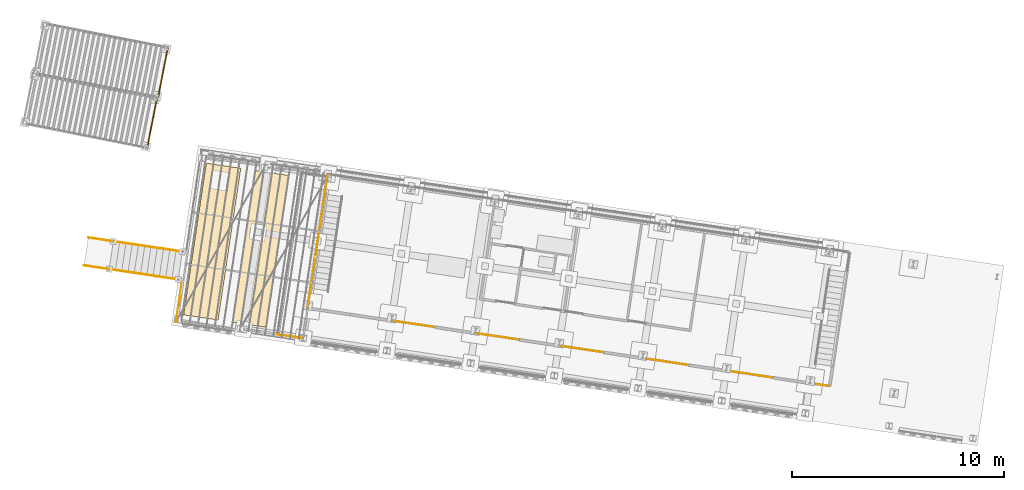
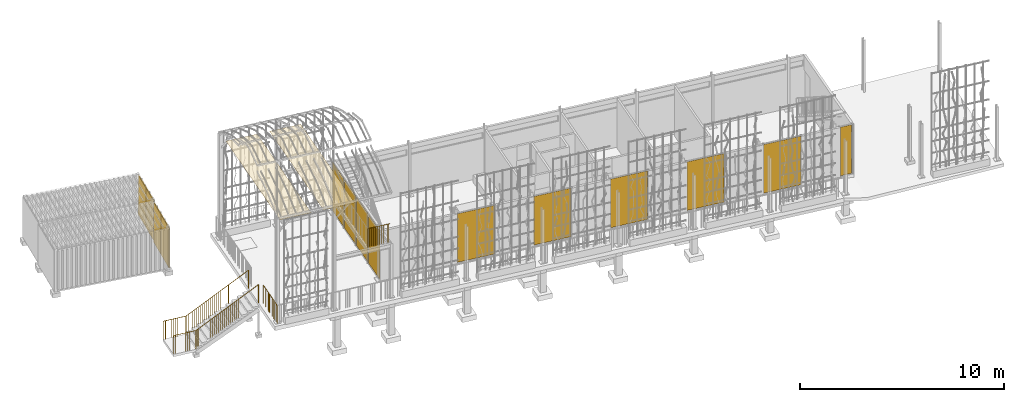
# One storey, part 137 of 142: 11 doors, 6 railings, 3 windows, 2 coverings, 5 elements without a shape of their own.
"""IFC4 building model written with IfcOpenShell, lengths in metres."""

from ifc_helpers import new_model, si_unit, direction, frame, origin_with_axes, place, context, subcontext, project, spatial, polyline, circle, outline, extrude, material, element, aggregate, save


model = new_model("IFC4")

# Units and contexts
model_context = context("Model", 3, precision=1e-05, world=origin_with_axes(), true_north=direction((0.0, 1.0)))
body_context = subcontext(model_context, "Body", "Model", "MODEL_VIEW")
ifc_project = project(units=[si_unit("AREAUNIT", "SQUARE_METRE"), si_unit("VOLUMEUNIT", "CUBIC_METRE"), si_unit("LENGTHUNIT", "METRE")], contexts=[model_context])

# Site, building, storey
site_placement = place(None, origin_with_axes())
site = spatial("IfcSite", under=ifc_project, at=site_placement, Name="Lares · Rua das Mercês · artigo 4771")
building_placement = place(site_placement, frame((15.0, 9.7, 14.65), z_axis=(0.0, 0.0, 1.0), x_axis=(0.989015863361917, -0.147809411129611, 0.0)))
building = spatial("IfcBuilding", under=site, at=building_placement, Name="Casa Sobreposta")
storey_placement = place(building_placement, origin_with_axes())
storey = spatial("IfcBuildingStorey", under=building, at=storey_placement, Name="00 · Habitação e estacionamento", Elevation=14.65)

# Doors
ifc_material_1 = material(Name="Vidro / Normalglas", Category="glass")
door_1_placement = place(storey_placement, frame((0.0, 0.0, 0.025), z_axis=(0.0, 0.0, 1.0), x_axis=(1.0, 0.0, 0.0)))
element("IfcDoor", 1, at=door_1_placement, inside=storey, material=ifc_material_1, Name="Folha de correr sul 2", OperationType="SLIDING_TO_LEFT", OverallHeight=2.918, OverallWidth=1.97133333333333, PredefinedType="DOOR", context=body_context, shape_type="SweptSolid", body=[
    extrude(outline(polyline([(6.039, 0.004), (6.039, -0.004), (4.06766666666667, -0.004), (4.06766666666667, 0.004), (6.039, 0.004)])), origin_with_axes(), (0.0, 0.0, 1.0), 2.918),
])
door_2_placement = place(storey_placement, frame((0.0, 0.0, 0.025), z_axis=(0.0, 0.0, 1.0), x_axis=(1.0, 0.0, 0.0)))
element("IfcDoor", 2, at=door_2_placement, inside=storey, material=ifc_material_1, Name="Folha de correr sul 4", OperationType="SLIDING_TO_LEFT", OverallHeight=2.918, OverallWidth=1.97133333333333, PredefinedType="DOOR", context=body_context, shape_type="SweptSolid", body=[
    extrude(outline(polyline([(10.0816666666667, 0.004), (10.0816666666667, -0.004), (8.11033333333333, -0.004), (8.11033333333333, 0.004), (10.0816666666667, 0.004)])), origin_with_axes(), (0.0, 0.0, 1.0), 2.918),
])
door_3_placement = place(storey_placement, frame((0.0, 0.0, 0.025), z_axis=(0.0, 0.0, 1.0), x_axis=(1.0, 0.0, 0.0)))
element("IfcDoor", 3, at=door_3_placement, inside=storey, material=ifc_material_1, Name="Folha de correr sul 6", OperationType="SLIDING_TO_LEFT", OverallHeight=2.918, OverallWidth=1.97133333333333, PredefinedType="DOOR", context=body_context, shape_type="SweptSolid", body=[
    extrude(outline(polyline([(14.1243333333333, 0.004), (14.1243333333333, -0.004), (12.153, -0.004), (12.153, 0.004), (14.1243333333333, 0.004)])), origin_with_axes(), (0.0, 0.0, 1.0), 2.918),
])
door_4_placement = place(storey_placement, frame((0.0, 0.0, 0.025), z_axis=(0.0, 0.0, 1.0), x_axis=(1.0, 0.0, 0.0)))
element("IfcDoor", 4, at=door_4_placement, inside=storey, material=ifc_material_1, Name="Folha de correr sul 8", OperationType="SLIDING_TO_LEFT", OverallHeight=2.918, OverallWidth=1.97133333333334, PredefinedType="DOOR", context=body_context, shape_type="SweptSolid", body=[
    extrude(outline(polyline([(18.167, 0.004), (18.167, -0.004), (16.1956666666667, -0.004), (16.1956666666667, 0.004), (18.167, 0.004)])), origin_with_axes(), (0.0, 0.0, 1.0), 2.918),
])
door_5_placement = place(storey_placement, frame((0.0, 0.0, 0.025), z_axis=(0.0, 0.0, 1.0), x_axis=(1.0, 0.0, 0.0)))
element("IfcDoor", 5, at=door_5_placement, inside=storey, material=ifc_material_1, Name="Folha de correr sul 10", OperationType="SLIDING_TO_LEFT", OverallHeight=2.918, OverallWidth=1.97133333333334, PredefinedType="DOOR", context=body_context, shape_type="SweptSolid", body=[
    extrude(outline(polyline([(22.2096666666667, 0.004), (22.2096666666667, -0.004), (20.2383333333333, -0.004), (20.2383333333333, 0.004), (22.2096666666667, 0.004)])), origin_with_axes(), (0.0, 0.0, 1.0), 2.918),
])
door_6_placement = place(storey_placement, frame((0.0, 0.0, 0.025), z_axis=(0.0, 0.0, 1.0), x_axis=(1.0, 0.0, 0.0)))
element("IfcDoor", 6, at=door_6_placement, inside=storey, material=ifc_material_1, Name="Folha de correr sul 12", OperationType="SLIDING_TO_LEFT", OverallHeight=2.918, OverallWidth=0.614000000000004, PredefinedType="DOOR", context=body_context, shape_type="SweptSolid", body=[
    extrude(outline(polyline([(24.895, 0.004), (24.895, -0.004), (24.281, -0.004), (24.281, 0.004), (24.895, 0.004)])), origin_with_axes(), (0.0, 0.0, 1.0), 2.918),
])

# Windows
window_1_placement = place(storey_placement, frame((0.0, 0.0, 0.025), z_axis=(0.0, 0.0, 1.0), x_axis=(1.0, 0.0, 0.0)))
element("IfcWindow", 7, at=window_1_placement, inside=storey, material=ifc_material_1, Name="Fachada poente integralmente envidraçada · módulo 1", OverallHeight=2.918, OverallWidth=1.55, PartitioningType="SINGLE_PANEL", PredefinedType="WINDOW", context=body_context, shape_type="SweptSolid", body=[
    extrude(outline(polyline([(-0.004, 1.575), (0.004, 1.575), (0.004, 0.025), (-0.004, 0.025), (-0.004, 1.575)])), origin_with_axes(), (0.0, 0.0, 1.0), 2.918),
])
window_2_placement = place(storey_placement, frame((0.0, 0.0, 0.025), z_axis=(0.0, 0.0, 1.0), x_axis=(1.0, 0.0, 0.0)))
element("IfcWindow", 8, at=window_2_placement, inside=storey, material=ifc_material_1, Name="Fachada poente integralmente envidraçada · módulo 2", OverallHeight=2.918, OverallWidth=1.55, PartitioningType="SINGLE_PANEL", PredefinedType="WINDOW", context=body_context, shape_type="SweptSolid", body=[
    extrude(outline(polyline([(-0.004, 3.175), (0.004, 3.175), (0.004, 1.625), (-0.004, 1.625), (-0.004, 3.175)])), origin_with_axes(), (0.0, 0.0, 1.0), 2.918),
])
window_3_placement = place(storey_placement, frame((0.0, 0.0, 0.025), z_axis=(0.0, 0.0, 1.0), x_axis=(1.0, 0.0, 0.0)))
element("IfcWindow", 9, at=window_3_placement, inside=storey, material=ifc_material_1, Name="Fachada poente integralmente envidraçada · módulo 3", OverallHeight=2.918, OverallWidth=1.55, PartitioningType="SINGLE_PANEL", PredefinedType="WINDOW", context=body_context, shape_type="SweptSolid", body=[
    extrude(outline(polyline([(-0.004, 4.775), (0.004, 4.775), (0.004, 3.225), (-0.004, 3.225), (-0.004, 4.775)])), origin_with_axes(), (0.0, 0.0, 1.0), 2.918),
])

# Door
door_7_placement = place(storey_placement, frame((0.0, 0.0, 0.025), z_axis=(0.0, 0.0, 1.0), x_axis=(1.0, 0.0, 0.0)))
element("IfcDoor", 10, at=door_7_placement, inside=storey, material=ifc_material_1, Name="Fachada poente integralmente envidraçada · módulo 4", OperationType="SLIDING_TO_LEFT", OverallHeight=2.918, OverallWidth=1.55, PredefinedType="DOOR", context=body_context, shape_type="SweptSolid", body=[
    extrude(outline(polyline([(-0.004, 6.375), (0.004, 6.375), (0.004, 4.825), (-0.004, 4.825), (-0.004, 6.375)])), origin_with_axes(), (0.0, 0.0, 1.0), 2.918),
])

# Assembly, doors
assembly_1_placement = place(storey_placement, frame((-14.4335953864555, 9.04888612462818, 0.0), z_axis=(0.0, 0.0, 1.0), x_axis=(0.999032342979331, -0.0439815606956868, 0.0)))
assembly_1 = element("IfcElementAssembly", 11, at=assembly_1_placement, inside=storey, Name="Contentor existente 1 · 6 m", ObjectType="EXISTING_SHIPPING_CONTAINER", PredefinedType="USERDEFINED")
ifc_material_2 = material(Name="Contentor · pintura 1", Category="steel")
door_8_placement = place(assembly_1_placement, frame((0.0, 0.0, -1.2), z_axis=(0.0, 0.0, 1.0), x_axis=(1.0, 0.0, 0.0)))
door_8 = element("IfcDoor", 12, at=door_8_placement, material=ifc_material_2, Name="Contentor · porta dupla", OperationType="SINGLE_SWING_LEFT", OverallHeight=2.39, OverallWidth=1.17, PredefinedType="DOOR", context=body_context, shape_type="SweptSolid", body=[
    extrude(outline(polyline([(5.955, 1.21), (6.005, 1.21), (6.005, 0.04), (5.955, 0.04), (5.955, 1.21)])), origin_with_axes(), (0.0, 0.0, 1.0), 2.39),
])
door_9_placement = place(assembly_1_placement, frame((0.0, 0.0, -1.2), z_axis=(0.0, 0.0, 1.0), x_axis=(1.0, 0.0, 0.0)))
door_9 = element("IfcDoor", 13, at=door_9_placement, material=ifc_material_2, Name="Contentor · porta dupla", OperationType="SINGLE_SWING_LEFT", OverallHeight=2.39, OverallWidth=1.17, PredefinedType="DOOR", context=body_context, shape_type="SweptSolid", body=[
    extrude(outline(polyline([(5.955, 2.39), (6.005, 2.39), (6.005, 1.22), (5.955, 1.22), (5.955, 2.39)])), origin_with_axes(), (0.0, 0.0, 1.0), 2.39),
])
aggregate(assembly_1, [door_8, door_9])

assembly_2_placement = place(storey_placement, frame((-14.5932944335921, 6.63122214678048, 0.0), z_axis=(0.0, 0.0, 1.0), x_axis=(0.998832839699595, -0.0483007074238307, 0.0)))
assembly_2 = element("IfcElementAssembly", 14, at=assembly_2_placement, inside=storey, Name="Contentor existente 2 · 6 m", ObjectType="EXISTING_SHIPPING_CONTAINER", PredefinedType="USERDEFINED")
ifc_material_3 = material(Name="Contentor · pintura 2", Category="steel")
door_10_placement = place(assembly_2_placement, frame((0.0, 0.0, -1.2), z_axis=(0.0, 0.0, 1.0), x_axis=(1.0, 0.0, 0.0)))
door_10 = element("IfcDoor", 15, at=door_10_placement, material=ifc_material_3, Name="Contentor · porta dupla", OperationType="SINGLE_SWING_LEFT", OverallHeight=2.39, OverallWidth=1.17, PredefinedType="DOOR", context=body_context, shape_type="SweptSolid", body=[
    extrude(outline(polyline([(5.955, 1.21), (6.005, 1.21), (6.005, 0.04), (5.955, 0.04), (5.955, 1.21)])), origin_with_axes(), (0.0, 0.0, 1.0), 2.39),
])
door_11_placement = place(assembly_2_placement, frame((0.0, 0.0, -1.2), z_axis=(0.0, 0.0, 1.0), x_axis=(1.0, 0.0, 0.0)))
door_11 = element("IfcDoor", 16, at=door_11_placement, material=ifc_material_3, Name="Contentor · porta dupla", OperationType="SINGLE_SWING_LEFT", OverallHeight=2.39, OverallWidth=1.17, PredefinedType="DOOR", context=body_context, shape_type="SweptSolid", body=[
    extrude(outline(polyline([(5.955, 2.39), (6.005, 2.39), (6.005, 1.22), (5.955, 1.22), (5.955, 2.39)])), origin_with_axes(), (0.0, 0.0, 1.0), 2.39),
])
aggregate(assembly_2, [door_10, door_11])

# Assembly, railing
assembly_3_placement = place(storey_placement, origin_with_axes())
assembly_3 = element("IfcElementAssembly", 17, at=assembly_3_placement, inside=storey, Name="Pódio · terraço, casa térrea e cisterna", ObjectType="CISTERN_PODIUM", PredefinedType="USERDEFINED")
ifc_material_4 = material(Name="Aço pintado / Stahl lackiert", Category="steel")
railing_1_placement = place(assembly_3_placement, origin_with_axes())
railing_1 = element("IfcRailing", 18, at=railing_1_placement, material=ifc_material_4, Name="Pódio · guarda poente sul", PredefinedType="GUARDRAIL", context=body_context, shape_type="SweptSolid", body=[
    extrude(circle(Radius=0.015), frame((-6.05, -1.55, 1.06), z_axis=(0.0, 1.0, 0.0), x_axis=(1.0, 0.0, 0.0)), (0.0, 0.0, 1.0), 1.85),
    extrude(circle(Radius=0.0175), frame((-6.05, -1.55, -0.04), z_axis=(0.0, 0.0, 1.0), x_axis=(1.0, 0.0, 0.0)), (0.0, 0.0, 1.0), 1.1),
    extrude(circle(Radius=0.006), frame((-6.05, -1.44117647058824, -0.04), z_axis=(0.0, 0.0, 1.0), x_axis=(1.0, 0.0, 0.0)), (0.0, 0.0, 1.0), 1.1),
    extrude(circle(Radius=0.006), frame((-6.05, -1.33235294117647, -0.04), z_axis=(0.0, 0.0, 1.0), x_axis=(1.0, 0.0, 0.0)), (0.0, 0.0, 1.0), 1.1),
    extrude(circle(Radius=0.006), frame((-6.05, -1.22352941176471, -0.04), z_axis=(0.0, 0.0, 1.0), x_axis=(1.0, 0.0, 0.0)), (0.0, 0.0, 1.0), 1.1),
    extrude(circle(Radius=0.006), frame((-6.05, -1.11470588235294, -0.04), z_axis=(0.0, 0.0, 1.0), x_axis=(1.0, 0.0, 0.0)), (0.0, 0.0, 1.0), 1.1),
    extrude(circle(Radius=0.006), frame((-6.05, -1.00588235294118, -0.04), z_axis=(0.0, 0.0, 1.0), x_axis=(1.0, 0.0, 0.0)), (0.0, 0.0, 1.0), 1.1),
    extrude(circle(Radius=0.006), frame((-6.05, -0.897058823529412, -0.04), z_axis=(0.0, 0.0, 1.0), x_axis=(1.0, 0.0, 0.0)), (0.0, 0.0, 1.0), 1.1),
    extrude(circle(Radius=0.006), frame((-6.05, -0.788235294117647, -0.04), z_axis=(0.0, 0.0, 1.0), x_axis=(1.0, 0.0, 0.0)), (0.0, 0.0, 1.0), 1.1),
    extrude(circle(Radius=0.006), frame((-6.05, -0.679411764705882, -0.04), z_axis=(0.0, 0.0, 1.0), x_axis=(1.0, 0.0, 0.0)), (0.0, 0.0, 1.0), 1.1),
    extrude(circle(Radius=0.006), frame((-6.05, -0.570588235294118, -0.04), z_axis=(0.0, 0.0, 1.0), x_axis=(1.0, 0.0, 0.0)), (0.0, 0.0, 1.0), 1.1),
    extrude(circle(Radius=0.0175), frame((-6.05, -0.461764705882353, -0.04), z_axis=(0.0, 0.0, 1.0), x_axis=(1.0, 0.0, 0.0)), (0.0, 0.0, 1.0), 1.1),
    extrude(circle(Radius=0.006), frame((-6.05, -0.352941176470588, -0.04), z_axis=(0.0, 0.0, 1.0), x_axis=(1.0, 0.0, 0.0)), (0.0, 0.0, 1.0), 1.1),
    extrude(circle(Radius=0.006), frame((-6.05, -0.244117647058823, -0.04), z_axis=(0.0, 0.0, 1.0), x_axis=(1.0, 0.0, 0.0)), (0.0, 0.0, 1.0), 1.1),
    extrude(circle(Radius=0.006), frame((-6.05, -0.135294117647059, -0.04), z_axis=(0.0, 0.0, 1.0), x_axis=(1.0, 0.0, 0.0)), (0.0, 0.0, 1.0), 1.1),
    extrude(circle(Radius=0.006), frame((-6.05, -0.0264705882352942, -0.04), z_axis=(0.0, 0.0, 1.0), x_axis=(1.0, 0.0, 0.0)), (0.0, 0.0, 1.0), 1.1),
    extrude(circle(Radius=0.006), frame((-6.05, 0.0823529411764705, -0.04), z_axis=(0.0, 0.0, 1.0), x_axis=(1.0, 0.0, 0.0)), (0.0, 0.0, 1.0), 1.1),
    extrude(circle(Radius=0.006), frame((-6.05, 0.191176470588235, -0.04), z_axis=(0.0, 0.0, 1.0), x_axis=(1.0, 0.0, 0.0)), (0.0, 0.0, 1.0), 1.1),
    extrude(circle(Radius=0.006), frame((-6.05, 0.3, -0.04), z_axis=(0.0, 0.0, 1.0), x_axis=(1.0, 0.0, 0.0)), (0.0, 0.0, 1.0), 1.1),
])
aggregate(assembly_3, [railing_1])

# Stair, railings
stair_placement = place(storey_placement, origin_with_axes())
stair = element("IfcStair", 19, at=stair_placement, inside=storey, Name="Jardim · escada pela fachada poente", PredefinedType="STRAIGHT_RUN_STAIR")
railing_2_placement = place(stair_placement, origin_with_axes())
railing_2 = element("IfcRailing", 20, at=railing_2_placement, material=ifc_material_4, Name="Jardim · corrimão poente", PredefinedType="GUARDRAIL", context=body_context, shape_type="SweptSolid", body=[
    extrude(circle(Radius=0.015), frame((-6.25, 0.435, 1.06), z_axis=(-0.865486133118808, 0.0, -0.500932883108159), x_axis=(0.0, 1.0, 0.0)), (0.0, 0.0, 1.0), 3.81288604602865),
    extrude(circle(Radius=0.0175), frame((-6.25, 0.435, -0.04), z_axis=(0.0, 0.0, 1.0), x_axis=(1.0, 0.0, 0.0)), (0.0, 0.0, 1.0), 1.1),
    extrude(circle(Radius=0.006), frame((-6.35645161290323, 0.435, -0.101612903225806), z_axis=(0.0, 0.0, 1.0), x_axis=(1.0, 0.0, 0.0)), (0.0, 0.0, 1.0), 1.1),
    extrude(circle(Radius=0.006), frame((-6.46290322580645, 0.435, -0.163225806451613), z_axis=(0.0, 0.0, 1.0), x_axis=(1.0, 0.0, 0.0)), (0.0, 0.0, 1.0), 1.1),
    extrude(circle(Radius=0.006), frame((-6.56935483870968, 0.435, -0.224838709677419), z_axis=(0.0, 0.0, 1.0), x_axis=(1.0, 0.0, 0.0)), (0.0, 0.0, 1.0), 1.1),
    extrude(circle(Radius=0.006), frame((-6.6758064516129, 0.435, -0.286451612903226), z_axis=(0.0, 0.0, 1.0), x_axis=(1.0, 0.0, 0.0)), (0.0, 0.0, 1.0), 1.1),
    extrude(circle(Radius=0.006), frame((-6.78225806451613, 0.435, -0.348064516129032), z_axis=(0.0, 0.0, 1.0), x_axis=(1.0, 0.0, 0.0)), (0.0, 0.0, 1.0), 1.1),
    extrude(circle(Radius=0.006), frame((-6.88870967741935, 0.435, -0.409677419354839), z_axis=(0.0, 0.0, 1.0), x_axis=(1.0, 0.0, 0.0)), (0.0, 0.0, 1.0), 1.1),
    extrude(circle(Radius=0.006), frame((-6.99516129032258, 0.435, -0.471290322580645), z_axis=(0.0, 0.0, 1.0), x_axis=(1.0, 0.0, 0.0)), (0.0, 0.0, 1.0), 1.1),
    extrude(circle(Radius=0.006), frame((-7.10161290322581, 0.435, -0.532903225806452), z_axis=(0.0, 0.0, 1.0), x_axis=(1.0, 0.0, 0.0)), (0.0, 0.0, 1.0), 1.1),
    extrude(circle(Radius=0.006), frame((-7.20806451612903, 0.435, -0.594516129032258), z_axis=(0.0, 0.0, 1.0), x_axis=(1.0, 0.0, 0.0)), (0.0, 0.0, 1.0), 1.1),
    extrude(circle(Radius=0.0175), frame((-7.31451612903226, 0.435, -0.656129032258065), z_axis=(0.0, 0.0, 1.0), x_axis=(1.0, 0.0, 0.0)), (0.0, 0.0, 1.0), 1.1),
    extrude(circle(Radius=0.006), frame((-7.42096774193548, 0.435, -0.717741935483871), z_axis=(0.0, 0.0, 1.0), x_axis=(1.0, 0.0, 0.0)), (0.0, 0.0, 1.0), 1.1),
    extrude(circle(Radius=0.006), frame((-7.52741935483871, 0.435, -0.779354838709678), z_axis=(0.0, 0.0, 1.0), x_axis=(1.0, 0.0, 0.0)), (0.0, 0.0, 1.0), 1.1),
    extrude(circle(Radius=0.006), frame((-7.63387096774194, 0.435, -0.840967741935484), z_axis=(0.0, 0.0, 1.0), x_axis=(1.0, 0.0, 0.0)), (0.0, 0.0, 1.0), 1.1),
    extrude(circle(Radius=0.006), frame((-7.74032258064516, 0.435, -0.902580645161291), z_axis=(0.0, 0.0, 1.0), x_axis=(1.0, 0.0, 0.0)), (0.0, 0.0, 1.0), 1.1),
    extrude(circle(Radius=0.006), frame((-7.84677419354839, 0.435, -0.964193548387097), z_axis=(0.0, 0.0, 1.0), x_axis=(1.0, 0.0, 0.0)), (0.0, 0.0, 1.0), 1.1),
    extrude(circle(Radius=0.006), frame((-7.95322580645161, 0.435, -1.0258064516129), z_axis=(0.0, 0.0, 1.0), x_axis=(1.0, 0.0, 0.0)), (0.0, 0.0, 1.0), 1.1),
    extrude(circle(Radius=0.006), frame((-8.05967741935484, 0.435, -1.08741935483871), z_axis=(0.0, 0.0, 1.0), x_axis=(1.0, 0.0, 0.0)), (0.0, 0.0, 1.0), 1.1),
    extrude(circle(Radius=0.006), frame((-8.16612903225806, 0.435, -1.14903225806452), z_axis=(0.0, 0.0, 1.0), x_axis=(1.0, 0.0, 0.0)), (0.0, 0.0, 1.0), 1.1),
    extrude(circle(Radius=0.006), frame((-8.27258064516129, 0.435, -1.21064516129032), z_axis=(0.0, 0.0, 1.0), x_axis=(1.0, 0.0, 0.0)), (0.0, 0.0, 1.0), 1.1),
    extrude(circle(Radius=0.0175), frame((-8.37903225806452, 0.435, -1.27225806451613), z_axis=(0.0, 0.0, 1.0), x_axis=(1.0, 0.0, 0.0)), (0.0, 0.0, 1.0), 1.1),
    extrude(circle(Radius=0.006), frame((-8.48548387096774, 0.435, -1.33387096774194), z_axis=(0.0, 0.0, 1.0), x_axis=(1.0, 0.0, 0.0)), (0.0, 0.0, 1.0), 1.1),
    extrude(circle(Radius=0.006), frame((-8.59193548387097, 0.435, -1.39548387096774), z_axis=(0.0, 0.0, 1.0), x_axis=(1.0, 0.0, 0.0)), (0.0, 0.0, 1.0), 1.1),
    extrude(circle(Radius=0.006), frame((-8.69838709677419, 0.435, -1.45709677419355), z_axis=(0.0, 0.0, 1.0), x_axis=(1.0, 0.0, 0.0)), (0.0, 0.0, 1.0), 1.1),
    extrude(circle(Radius=0.006), frame((-8.80483870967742, 0.435, -1.51870967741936), z_axis=(0.0, 0.0, 1.0), x_axis=(1.0, 0.0, 0.0)), (0.0, 0.0, 1.0), 1.1),
    extrude(circle(Radius=0.006), frame((-8.91129032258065, 0.435, -1.58032258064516), z_axis=(0.0, 0.0, 1.0), x_axis=(1.0, 0.0, 0.0)), (0.0, 0.0, 1.0), 1.1),
    extrude(circle(Radius=0.006), frame((-9.01774193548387, 0.435, -1.64193548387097), z_axis=(0.0, 0.0, 1.0), x_axis=(1.0, 0.0, 0.0)), (0.0, 0.0, 1.0), 1.1),
    extrude(circle(Radius=0.006), frame((-9.1241935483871, 0.435, -1.70354838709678), z_axis=(0.0, 0.0, 1.0), x_axis=(1.0, 0.0, 0.0)), (0.0, 0.0, 1.0), 1.1),
    extrude(circle(Radius=0.006), frame((-9.23064516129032, 0.435, -1.76516129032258), z_axis=(0.0, 0.0, 1.0), x_axis=(1.0, 0.0, 0.0)), (0.0, 0.0, 1.0), 1.1),
    extrude(circle(Radius=0.006), frame((-9.33709677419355, 0.435, -1.82677419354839), z_axis=(0.0, 0.0, 1.0), x_axis=(1.0, 0.0, 0.0)), (0.0, 0.0, 1.0), 1.1),
    extrude(circle(Radius=0.0175), frame((-9.44354838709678, 0.435, -1.88838709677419), z_axis=(0.0, 0.0, 1.0), x_axis=(1.0, 0.0, 0.0)), (0.0, 0.0, 1.0), 1.1),
    extrude(circle(Radius=0.006), frame((-9.55, 0.435, -1.95), z_axis=(0.0, 0.0, 1.0), x_axis=(1.0, 0.0, 0.0)), (0.0, 0.0, 1.0), 1.1),
])
railing_3_placement = place(stair_placement, origin_with_axes())
railing_3 = element("IfcRailing", 21, at=railing_3_placement, material=ifc_material_4, Name="Jardim · guarda do patamar", PredefinedType="GUARDRAIL", context=body_context, shape_type="SweptSolid", body=[
    extrude(circle(Radius=0.015), frame((-9.55, 0.435, -0.850000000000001), z_axis=(-1.0, 0.0, 0.0), x_axis=(0.0, 1.0, 0.0)), (0.0, 0.0, 1.0), 1.2),
    extrude(circle(Radius=0.0175), frame((-9.55, 0.435, -1.95), z_axis=(0.0, 0.0, 1.0), x_axis=(1.0, 0.0, 0.0)), (0.0, 0.0, 1.0), 1.1),
    extrude(circle(Radius=0.006), frame((-9.65909090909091, 0.435, -1.95), z_axis=(0.0, 0.0, 1.0), x_axis=(1.0, 0.0, 0.0)), (0.0, 0.0, 1.0), 1.1),
    extrude(circle(Radius=0.006), frame((-9.76818181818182, 0.435, -1.95), z_axis=(0.0, 0.0, 1.0), x_axis=(1.0, 0.0, 0.0)), (0.0, 0.0, 1.0), 1.1),
    extrude(circle(Radius=0.006), frame((-9.87727272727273, 0.435, -1.95), z_axis=(0.0, 0.0, 1.0), x_axis=(1.0, 0.0, 0.0)), (0.0, 0.0, 1.0), 1.1),
    extrude(circle(Radius=0.006), frame((-9.98636363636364, 0.435, -1.95), z_axis=(0.0, 0.0, 1.0), x_axis=(1.0, 0.0, 0.0)), (0.0, 0.0, 1.0), 1.1),
    extrude(circle(Radius=0.006), frame((-10.0954545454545, 0.435, -1.95), z_axis=(0.0, 0.0, 1.0), x_axis=(1.0, 0.0, 0.0)), (0.0, 0.0, 1.0), 1.1),
    extrude(circle(Radius=0.006), frame((-10.2045454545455, 0.435, -1.95), z_axis=(0.0, 0.0, 1.0), x_axis=(1.0, 0.0, 0.0)), (0.0, 0.0, 1.0), 1.1),
    extrude(circle(Radius=0.006), frame((-10.3136363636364, 0.435, -1.95), z_axis=(0.0, 0.0, 1.0), x_axis=(1.0, 0.0, 0.0)), (0.0, 0.0, 1.0), 1.1),
    extrude(circle(Radius=0.006), frame((-10.4227272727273, 0.435, -1.95), z_axis=(0.0, 0.0, 1.0), x_axis=(1.0, 0.0, 0.0)), (0.0, 0.0, 1.0), 1.1),
    extrude(circle(Radius=0.006), frame((-10.5318181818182, 0.435, -1.95), z_axis=(0.0, 0.0, 1.0), x_axis=(1.0, 0.0, 0.0)), (0.0, 0.0, 1.0), 1.1),
    extrude(circle(Radius=0.0175), frame((-10.6409090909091, 0.435, -1.95), z_axis=(0.0, 0.0, 1.0), x_axis=(1.0, 0.0, 0.0)), (0.0, 0.0, 1.0), 1.1),
    extrude(circle(Radius=0.006), frame((-10.75, 0.435, -1.95), z_axis=(0.0, 0.0, 1.0), x_axis=(1.0, 0.0, 0.0)), (0.0, 0.0, 1.0), 1.1),
])
railing_4_placement = place(stair_placement, origin_with_axes())
railing_4 = element("IfcRailing", 22, at=railing_4_placement, material=ifc_material_4, Name="Jardim · corrimão poente", PredefinedType="GUARDRAIL", context=body_context, shape_type="SweptSolid", body=[
    extrude(circle(Radius=0.015), frame((-6.25, 1.765, 1.06), z_axis=(-0.865486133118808, 0.0, -0.500932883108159), x_axis=(0.0, 1.0, 0.0)), (0.0, 0.0, 1.0), 3.81288604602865),
    extrude(circle(Radius=0.0175), frame((-6.25, 1.765, -0.04), z_axis=(0.0, 0.0, 1.0), x_axis=(1.0, 0.0, 0.0)), (0.0, 0.0, 1.0), 1.1),
    extrude(circle(Radius=0.006), frame((-6.35645161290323, 1.765, -0.101612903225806), z_axis=(0.0, 0.0, 1.0), x_axis=(1.0, 0.0, 0.0)), (0.0, 0.0, 1.0), 1.1),
    extrude(circle(Radius=0.006), frame((-6.46290322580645, 1.765, -0.163225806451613), z_axis=(0.0, 0.0, 1.0), x_axis=(1.0, 0.0, 0.0)), (0.0, 0.0, 1.0), 1.1),
    extrude(circle(Radius=0.006), frame((-6.56935483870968, 1.765, -0.224838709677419), z_axis=(0.0, 0.0, 1.0), x_axis=(1.0, 0.0, 0.0)), (0.0, 0.0, 1.0), 1.1),
    extrude(circle(Radius=0.006), frame((-6.6758064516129, 1.765, -0.286451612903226), z_axis=(0.0, 0.0, 1.0), x_axis=(1.0, 0.0, 0.0)), (0.0, 0.0, 1.0), 1.1),
    extrude(circle(Radius=0.006), frame((-6.78225806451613, 1.765, -0.348064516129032), z_axis=(0.0, 0.0, 1.0), x_axis=(1.0, 0.0, 0.0)), (0.0, 0.0, 1.0), 1.1),
    extrude(circle(Radius=0.006), frame((-6.88870967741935, 1.765, -0.409677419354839), z_axis=(0.0, 0.0, 1.0), x_axis=(1.0, 0.0, 0.0)), (0.0, 0.0, 1.0), 1.1),
    extrude(circle(Radius=0.006), frame((-6.99516129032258, 1.765, -0.471290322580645), z_axis=(0.0, 0.0, 1.0), x_axis=(1.0, 0.0, 0.0)), (0.0, 0.0, 1.0), 1.1),
    extrude(circle(Radius=0.006), frame((-7.10161290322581, 1.765, -0.532903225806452), z_axis=(0.0, 0.0, 1.0), x_axis=(1.0, 0.0, 0.0)), (0.0, 0.0, 1.0), 1.1),
    extrude(circle(Radius=0.006), frame((-7.20806451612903, 1.765, -0.594516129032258), z_axis=(0.0, 0.0, 1.0), x_axis=(1.0, 0.0, 0.0)), (0.0, 0.0, 1.0), 1.1),
    extrude(circle(Radius=0.0175), frame((-7.31451612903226, 1.765, -0.656129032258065), z_axis=(0.0, 0.0, 1.0), x_axis=(1.0, 0.0, 0.0)), (0.0, 0.0, 1.0), 1.1),
    extrude(circle(Radius=0.006), frame((-7.42096774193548, 1.765, -0.717741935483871), z_axis=(0.0, 0.0, 1.0), x_axis=(1.0, 0.0, 0.0)), (0.0, 0.0, 1.0), 1.1),
    extrude(circle(Radius=0.006), frame((-7.52741935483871, 1.765, -0.779354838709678), z_axis=(0.0, 0.0, 1.0), x_axis=(1.0, 0.0, 0.0)), (0.0, 0.0, 1.0), 1.1),
    extrude(circle(Radius=0.006), frame((-7.63387096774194, 1.765, -0.840967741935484), z_axis=(0.0, 0.0, 1.0), x_axis=(1.0, 0.0, 0.0)), (0.0, 0.0, 1.0), 1.1),
    extrude(circle(Radius=0.006), frame((-7.74032258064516, 1.765, -0.902580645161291), z_axis=(0.0, 0.0, 1.0), x_axis=(1.0, 0.0, 0.0)), (0.0, 0.0, 1.0), 1.1),
    extrude(circle(Radius=0.006), frame((-7.84677419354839, 1.765, -0.964193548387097), z_axis=(0.0, 0.0, 1.0), x_axis=(1.0, 0.0, 0.0)), (0.0, 0.0, 1.0), 1.1),
    extrude(circle(Radius=0.006), frame((-7.95322580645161, 1.765, -1.0258064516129), z_axis=(0.0, 0.0, 1.0), x_axis=(1.0, 0.0, 0.0)), (0.0, 0.0, 1.0), 1.1),
    extrude(circle(Radius=0.006), frame((-8.05967741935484, 1.765, -1.08741935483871), z_axis=(0.0, 0.0, 1.0), x_axis=(1.0, 0.0, 0.0)), (0.0, 0.0, 1.0), 1.1),
    extrude(circle(Radius=0.006), frame((-8.16612903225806, 1.765, -1.14903225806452), z_axis=(0.0, 0.0, 1.0), x_axis=(1.0, 0.0, 0.0)), (0.0, 0.0, 1.0), 1.1),
    extrude(circle(Radius=0.006), frame((-8.27258064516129, 1.765, -1.21064516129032), z_axis=(0.0, 0.0, 1.0), x_axis=(1.0, 0.0, 0.0)), (0.0, 0.0, 1.0), 1.1),
    extrude(circle(Radius=0.0175), frame((-8.37903225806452, 1.765, -1.27225806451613), z_axis=(0.0, 0.0, 1.0), x_axis=(1.0, 0.0, 0.0)), (0.0, 0.0, 1.0), 1.1),
    extrude(circle(Radius=0.006), frame((-8.48548387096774, 1.765, -1.33387096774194), z_axis=(0.0, 0.0, 1.0), x_axis=(1.0, 0.0, 0.0)), (0.0, 0.0, 1.0), 1.1),
    extrude(circle(Radius=0.006), frame((-8.59193548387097, 1.765, -1.39548387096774), z_axis=(0.0, 0.0, 1.0), x_axis=(1.0, 0.0, 0.0)), (0.0, 0.0, 1.0), 1.1),
    extrude(circle(Radius=0.006), frame((-8.69838709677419, 1.765, -1.45709677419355), z_axis=(0.0, 0.0, 1.0), x_axis=(1.0, 0.0, 0.0)), (0.0, 0.0, 1.0), 1.1),
    extrude(circle(Radius=0.006), frame((-8.80483870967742, 1.765, -1.51870967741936), z_axis=(0.0, 0.0, 1.0), x_axis=(1.0, 0.0, 0.0)), (0.0, 0.0, 1.0), 1.1),
    extrude(circle(Radius=0.006), frame((-8.91129032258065, 1.765, -1.58032258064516), z_axis=(0.0, 0.0, 1.0), x_axis=(1.0, 0.0, 0.0)), (0.0, 0.0, 1.0), 1.1),
    extrude(circle(Radius=0.006), frame((-9.01774193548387, 1.765, -1.64193548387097), z_axis=(0.0, 0.0, 1.0), x_axis=(1.0, 0.0, 0.0)), (0.0, 0.0, 1.0), 1.1),
    extrude(circle(Radius=0.006), frame((-9.1241935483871, 1.765, -1.70354838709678), z_axis=(0.0, 0.0, 1.0), x_axis=(1.0, 0.0, 0.0)), (0.0, 0.0, 1.0), 1.1),
    extrude(circle(Radius=0.006), frame((-9.23064516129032, 1.765, -1.76516129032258), z_axis=(0.0, 0.0, 1.0), x_axis=(1.0, 0.0, 0.0)), (0.0, 0.0, 1.0), 1.1),
    extrude(circle(Radius=0.006), frame((-9.33709677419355, 1.765, -1.82677419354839), z_axis=(0.0, 0.0, 1.0), x_axis=(1.0, 0.0, 0.0)), (0.0, 0.0, 1.0), 1.1),
    extrude(circle(Radius=0.0175), frame((-9.44354838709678, 1.765, -1.88838709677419), z_axis=(0.0, 0.0, 1.0), x_axis=(1.0, 0.0, 0.0)), (0.0, 0.0, 1.0), 1.1),
    extrude(circle(Radius=0.006), frame((-9.55, 1.765, -1.95), z_axis=(0.0, 0.0, 1.0), x_axis=(1.0, 0.0, 0.0)), (0.0, 0.0, 1.0), 1.1),
])
railing_5_placement = place(stair_placement, origin_with_axes())
railing_5 = element("IfcRailing", 23, at=railing_5_placement, material=ifc_material_4, Name="Jardim · guarda do patamar", PredefinedType="GUARDRAIL", context=body_context, shape_type="SweptSolid", body=[
    extrude(circle(Radius=0.015), frame((-9.55, 1.765, -0.850000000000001), z_axis=(-1.0, 0.0, 0.0), x_axis=(0.0, 1.0, 0.0)), (0.0, 0.0, 1.0), 1.2),
    extrude(circle(Radius=0.0175), frame((-9.55, 1.765, -1.95), z_axis=(0.0, 0.0, 1.0), x_axis=(1.0, 0.0, 0.0)), (0.0, 0.0, 1.0), 1.1),
    extrude(circle(Radius=0.006), frame((-9.65909090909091, 1.765, -1.95), z_axis=(0.0, 0.0, 1.0), x_axis=(1.0, 0.0, 0.0)), (0.0, 0.0, 1.0), 1.1),
    extrude(circle(Radius=0.006), frame((-9.76818181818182, 1.765, -1.95), z_axis=(0.0, 0.0, 1.0), x_axis=(1.0, 0.0, 0.0)), (0.0, 0.0, 1.0), 1.1),
    extrude(circle(Radius=0.006), frame((-9.87727272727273, 1.765, -1.95), z_axis=(0.0, 0.0, 1.0), x_axis=(1.0, 0.0, 0.0)), (0.0, 0.0, 1.0), 1.1),
    extrude(circle(Radius=0.006), frame((-9.98636363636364, 1.765, -1.95), z_axis=(0.0, 0.0, 1.0), x_axis=(1.0, 0.0, 0.0)), (0.0, 0.0, 1.0), 1.1),
    extrude(circle(Radius=0.006), frame((-10.0954545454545, 1.765, -1.95), z_axis=(0.0, 0.0, 1.0), x_axis=(1.0, 0.0, 0.0)), (0.0, 0.0, 1.0), 1.1),
    extrude(circle(Radius=0.006), frame((-10.2045454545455, 1.765, -1.95), z_axis=(0.0, 0.0, 1.0), x_axis=(1.0, 0.0, 0.0)), (0.0, 0.0, 1.0), 1.1),
    extrude(circle(Radius=0.006), frame((-10.3136363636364, 1.765, -1.95), z_axis=(0.0, 0.0, 1.0), x_axis=(1.0, 0.0, 0.0)), (0.0, 0.0, 1.0), 1.1),
    extrude(circle(Radius=0.006), frame((-10.4227272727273, 1.765, -1.95), z_axis=(0.0, 0.0, 1.0), x_axis=(1.0, 0.0, 0.0)), (0.0, 0.0, 1.0), 1.1),
    extrude(circle(Radius=0.006), frame((-10.5318181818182, 1.765, -1.95), z_axis=(0.0, 0.0, 1.0), x_axis=(1.0, 0.0, 0.0)), (0.0, 0.0, 1.0), 1.1),
    extrude(circle(Radius=0.0175), frame((-10.6409090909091, 1.765, -1.95), z_axis=(0.0, 0.0, 1.0), x_axis=(1.0, 0.0, 0.0)), (0.0, 0.0, 1.0), 1.1),
    extrude(circle(Radius=0.006), frame((-10.75, 1.765, -1.95), z_axis=(0.0, 0.0, 1.0), x_axis=(1.0, 0.0, 0.0)), (0.0, 0.0, 1.0), 1.1),
])
aggregate(stair, [railing_2, railing_3, railing_4, railing_5])

# Assembly, railing, coverings
assembly_4_placement = place(storey_placement, origin_with_axes())
assembly_4 = element("IfcElementAssembly", 24, at=assembly_4_placement, inside=storey, Name="Pérgola · prolongamento da estufa 6 m", ObjectType="PERGOLA_GREENHOUSE_EXTENSION", PredefinedType="USERDEFINED")
railing_6_placement = place(assembly_4_placement, origin_with_axes())
railing_6 = element("IfcRailing", 25, at=railing_6_placement, material=ifc_material_4, Name="Varanda · guarda", PredefinedType="GUARDRAIL", context=body_context, shape_type="SweptSolid", body=[
    extrude(circle(Radius=0.015), frame((-1.225, -1.44, 4.34), z_axis=(1.0, 0.0, 0.0), x_axis=(0.0, -1.0, 0.0)), (0.0, 0.0, 1.0), 1.175),
    extrude(circle(Radius=0.0175), frame((-1.225, -1.44, 3.24), z_axis=(0.0, 0.0, 1.0), x_axis=(1.0, 0.0, 0.0)), (0.0, 0.0, 1.0), 1.1),
    extrude(circle(Radius=0.006), frame((-1.11818181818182, -1.44, 3.24), z_axis=(0.0, 0.0, 1.0), x_axis=(1.0, 0.0, 0.0)), (0.0, 0.0, 1.0), 1.1),
    extrude(circle(Radius=0.006), frame((-1.01136363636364, -1.44, 3.24), z_axis=(0.0, 0.0, 1.0), x_axis=(1.0, 0.0, 0.0)), (0.0, 0.0, 1.0), 1.1),
    extrude(circle(Radius=0.006), frame((-0.904545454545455, -1.44, 3.24), z_axis=(0.0, 0.0, 1.0), x_axis=(1.0, 0.0, 0.0)), (0.0, 0.0, 1.0), 1.1),
    extrude(circle(Radius=0.006), frame((-0.797727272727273, -1.44, 3.24), z_axis=(0.0, 0.0, 1.0), x_axis=(1.0, 0.0, 0.0)), (0.0, 0.0, 1.0), 1.1),
    extrude(circle(Radius=0.006), frame((-0.690909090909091, -1.44, 3.24), z_axis=(0.0, 0.0, 1.0), x_axis=(1.0, 0.0, 0.0)), (0.0, 0.0, 1.0), 1.1),
    extrude(circle(Radius=0.006), frame((-0.584090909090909, -1.44, 3.24), z_axis=(0.0, 0.0, 1.0), x_axis=(1.0, 0.0, 0.0)), (0.0, 0.0, 1.0), 1.1),
    extrude(circle(Radius=0.006), frame((-0.477272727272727, -1.44, 3.24), z_axis=(0.0, 0.0, 1.0), x_axis=(1.0, 0.0, 0.0)), (0.0, 0.0, 1.0), 1.1),
    extrude(circle(Radius=0.006), frame((-0.370454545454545, -1.44, 3.24), z_axis=(0.0, 0.0, 1.0), x_axis=(1.0, 0.0, 0.0)), (0.0, 0.0, 1.0), 1.1),
    extrude(circle(Radius=0.006), frame((-0.263636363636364, -1.44, 3.24), z_axis=(0.0, 0.0, 1.0), x_axis=(1.0, 0.0, 0.0)), (0.0, 0.0, 1.0), 1.1),
    extrude(circle(Radius=0.0175), frame((-0.156818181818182, -1.44, 3.24), z_axis=(0.0, 0.0, 1.0), x_axis=(1.0, 0.0, 0.0)), (0.0, 0.0, 1.0), 1.1),
    extrude(circle(Radius=0.006), frame((-0.05, -1.44, 3.24), z_axis=(0.0, 0.0, 1.0), x_axis=(1.0, 0.0, 0.0)), (0.0, 0.0, 1.0), 1.1),
])
ifc_material_5 = material(Name="Tecido de sombreamento — hipótese", Category="fabric")
covering_1_placement = place(assembly_4_placement, frame((0.0, 0.0, 5.86), z_axis=(0.0, 0.0, 1.0), x_axis=(1.0, 0.0, 0.0)))
covering_1 = element("IfcCovering", 26, at=covering_1_placement, material=ifc_material_5, Name="Pátio · sombreador têxtil retrátil", ObjectType="Pátio · sombreador têxtil retrátil", PredefinedType="USERDEFINED", context=body_context, shape_type="SweptSolid", body=[
    extrude(outline(polyline([(-4.1, -1.18), (-4.1, 6.07), (-5.75, 6.07), (-5.75, -1.18), (-4.1, -1.18)])), origin_with_axes(), (0.0, 0.0, 1.0), 0.004),
])
covering_2_placement = place(assembly_4_placement, frame((0.0, 0.0, 5.86), z_axis=(0.0, 0.0, 1.0), x_axis=(1.0, 0.0, 0.0)))
covering_2 = element("IfcCovering", 27, at=covering_2_placement, material=ifc_material_5, Name="Pátio · sombreador têxtil retrátil", ObjectType="Pátio · sombreador têxtil retrátil", PredefinedType="USERDEFINED", context=body_context, shape_type="SweptSolid", body=[
    extrude(outline(polyline([(-1.8, -1.18), (-1.8, 6.07), (-3.45, 6.07), (-3.45, -1.18), (-1.8, -1.18)])), origin_with_axes(), (0.0, 0.0, 1.0), 0.004),
])
aggregate(assembly_4, [railing_6, covering_1, covering_2])

save(model, "model.ifc")
